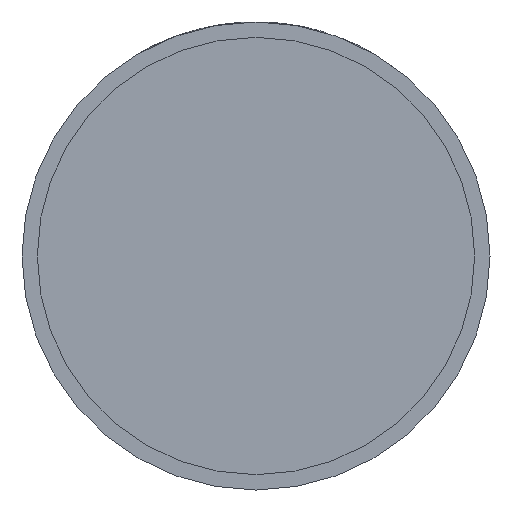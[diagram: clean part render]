
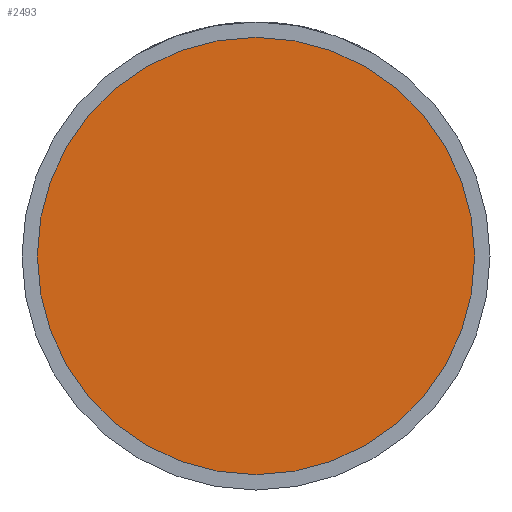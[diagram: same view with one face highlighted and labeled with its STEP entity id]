
A CAD part, front view. The second image highlights one B-rep face of the part: STEP entity #2493.
In plain terms, the highlighted planar face has unit normal (0, -1, 0).
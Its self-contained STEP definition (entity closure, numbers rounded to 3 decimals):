
#190 = CARTESIAN_POINT ( 'NONE',  ( 0., -17.5, 0. ) ) ;
#271 = ORIENTED_EDGE ( 'NONE', *, *, #513, .T. ) ;
#399 = DIRECTION ( 'NONE',  ( 1., 0., 0. ) ) ;
#513 = EDGE_CURVE ( 'NONE', #1800, #2222, #4129, .T. ) ;
#562 = DIRECTION ( 'NONE',  ( 1., 0., 0. ) ) ;
#572 = DIRECTION ( 'NONE',  ( 1., 0., 0. ) ) ;
#1133 = DIRECTION ( 'NONE',  ( 0., -1., 0. ) ) ;
#1204 = CIRCLE ( 'NONE', #3839, 28.5 ) ;
#1385 = DIRECTION ( 'NONE',  ( 0., -1., 0. ) ) ;
#1800 = VERTEX_POINT ( 'NONE', #3120 ) ;
#1863 = AXIS2_PLACEMENT_3D ( 'NONE', #2686, #1385, #399 ) ;
#1908 = CARTESIAN_POINT ( 'NONE',  ( 28.5, -17.5, 0. ) ) ;
#2222 = VERTEX_POINT ( 'NONE', #1908 ) ;
#2485 = ORIENTED_EDGE ( 'NONE', *, *, #3797, .T. ) ;
#2493 = ADVANCED_FACE ( 'NONE', ( #2496 ), #2816, .T. ) ;
#2496 = FACE_OUTER_BOUND ( 'NONE', #3540, .T. ) ;
#2544 = DIRECTION ( 'NONE',  ( 0., -1., 0. ) ) ;
#2555 = CARTESIAN_POINT ( 'NONE',  ( 28.5, -17.5, 0. ) ) ;
#2686 = CARTESIAN_POINT ( 'NONE',  ( 0., -17.5, 0. ) ) ;
#2816 = PLANE ( 'NONE',  #2875 ) ;
#2875 = AXIS2_PLACEMENT_3D ( 'NONE', #2555, #1133, #572 ) ;
#3120 = CARTESIAN_POINT ( 'NONE',  ( -28.5, -17.5, 0. ) ) ;
#3540 = EDGE_LOOP ( 'NONE', ( #2485, #271 ) ) ;
#3797 = EDGE_CURVE ( 'NONE', #2222, #1800, #1204, .T. ) ;
#3839 = AXIS2_PLACEMENT_3D ( 'NONE', #190, #2544, #562 ) ;
#4129 = CIRCLE ( 'NONE', #1863, 28.5 ) ;
